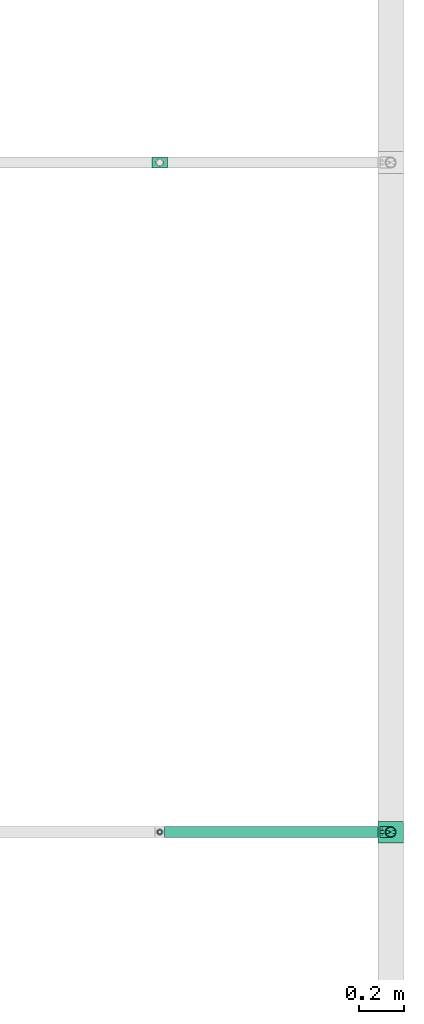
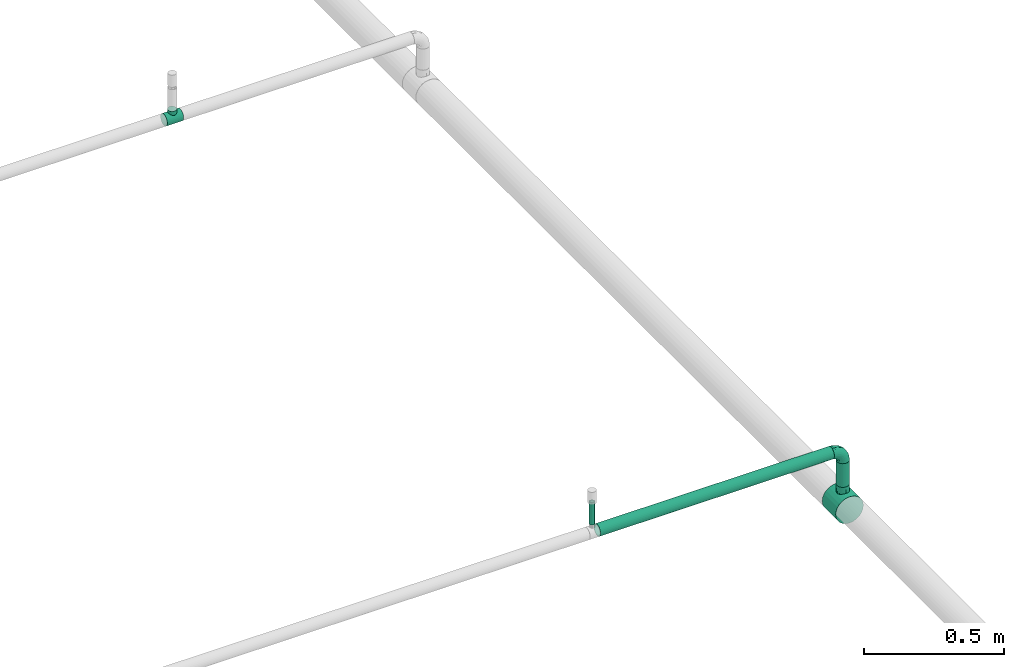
# One storey, part 5 of 14: 3 flow fittings, 3 flow segments.
"""IFC2X3 building model written with IfcOpenShell, lengths in millimetres."""

import ifcopenshell
import ifcopenshell.guid

model = None  # the IFC model being written
_history = None  # IfcOwnerHistory: only IFC2X3 demands one
_inside = {}  # id of a spatial element -> (the spatial element, [elements in it])
_under = {}  # id of a project, library or spatial element -> (it, [spatial elements below it])
_declared = {}  # id of a project -> (the project, [libraries it declares])
_typed = {}  # id of a type object -> (the type object, [elements of that type])
_made_of = {}  # id of a material, layer set ... -> (it, [elements and type objects made of it])


def new_model(schema):
    """Start an empty IFC model of exactly this schema.

    Asked for "IFC4X3", IfcOpenShell would pick the latest addendum, in which some entities
    have other attributes; the version numbers below select the first issue.
    IFC2X3 requires an IfcOwnerHistory on every rooted entity: one is made here for all.
    """
    global model, _history
    if schema == "IFC4X3":
        model = ifcopenshell.file(schema_version=(4, 3, 0, 0))
    else:
        model = ifcopenshell.file(schema=schema)
    _inside.clear()
    _under.clear()
    _declared.clear()
    _typed.clear()
    _made_of.clear()
    _history = None
    if model.schema == "IFC2X3":
        org = make("IfcOrganization", Name="unknown")
        user = make(
            "IfcPersonAndOrganization",
            ThePerson=make("IfcPerson", FamilyName="unknown"),
            TheOrganization=org,
        )
        app = make(
            "IfcApplication",
            ApplicationDeveloper=org,
            Version="unknown",
            ApplicationFullName="unknown",
            ApplicationIdentifier="unknown",
        )
        _history = make(
            "IfcOwnerHistory",
            OwningUser=user,
            OwningApplication=app,
            ChangeAction="ADDED",
            CreationDate=0,
        )
    return model


def make(cls, **values):
    """One entity of the class cls with the attributes given. An attribute that is None is left unset."""
    return model.create_entity(
        cls, **{name: value for name, value in values.items() if value is not None}
    )


def entity(cls, *values):
    """Any entity or typed value of the class cls, its attributes in the order of the schema. None: left unset."""
    e = model.create_entity(cls)
    for i, value in enumerate(values):
        if value is not None:
            e[i] = value
    return e


def rooted(cls, **values):
    """An entity with a GlobalId (a new one), such as an element, a storey or a relation."""
    return make(cls, GlobalId=ifcopenshell.guid.new(), OwnerHistory=_history, **values)


def si_unit(unit_type, name, prefix=None):
    """IfcSIUnit, for example si_unit("LENGTHUNIT", "METRE", prefix="MILLI")."""
    return make("IfcSIUnit", UnitType=unit_type, Prefix=prefix, Name=name)


def converted_unit(unit_type, name, factor, base, dimensions=None, offset=None):
    """IfcConversionBasedUnit, such as the inch: factor (a typed value) times the base unit."""
    return make(
        "IfcConversionBasedUnit"
        if offset is None
        else "IfcConversionBasedUnitWithOffset",
        ConversionOffset=offset,
        Dimensions=None
        if dimensions is None
        else entity("IfcDimensionalExponents", *dimensions),
        UnitType=unit_type,
        Name=name,
        ConversionFactor=make(
            "IfcMeasureWithUnit", ValueComponent=factor, UnitComponent=base
        ),
    )


def derived_unit(unit_type, elements):
    """IfcDerivedUnit: a product of units, each with its exponent."""
    return make(
        "IfcDerivedUnit",
        Elements=[
            make("IfcDerivedUnitElement", Unit=unit, Exponent=power)
            for unit, power in elements
        ],
        UnitType=unit_type,
    )


def assignment(units):
    """IfcUnitAssignment: the units of a project."""
    return None if units is None else make("IfcUnitAssignment", Units=units)


def point(xyz):
    """IfcCartesianPoint."""
    return None if xyz is None else make("IfcCartesianPoint", Coordinates=xyz)


def direction(xyz):
    """IfcDirection."""
    return None if xyz is None else make("IfcDirection", DirectionRatios=xyz)


def frame(location, z_axis=None, x_axis=None):
    """IfcAxis2Placement3D, a coordinate frame: its origin and axes. An axis left out is left unset."""
    return make(
        "IfcAxis2Placement3D",
        Location=point(location),
        Axis=direction(z_axis),
        RefDirection=direction(x_axis),
    )


def frame_2d(location, x_axis=None):
    """IfcAxis2Placement2D, a coordinate frame in the plane: its origin and x axis."""
    return make(
        "IfcAxis2Placement2D", Location=point(location), RefDirection=direction(x_axis)
    )


def origin_with_axes():
    """The frame at (0, 0, 0) with the z axis (0, 0, 1) and the x axis (1, 0, 0) written out."""
    return frame((0.0, 0.0, 0.0), z_axis=(0.0, 0.0, 1.0), x_axis=(1.0, 0.0, 0.0))


def origin_2d_with_axis():
    """The frame at (0, 0) in the plane with the x axis (1, 0) written out."""
    return frame_2d((0.0, 0.0), x_axis=(1.0, 0.0))


def place(relative_to, where):
    """IfcLocalPlacement: puts the frame where relative to a parent placement (None: the world)."""
    return make(
        "IfcLocalPlacement", PlacementRelTo=relative_to, RelativePlacement=where
    )


def context(
    kind, dimensions, precision=None, world=None, true_north=None, identifier=None
):
    """IfcGeometricRepresentationContext, for example the 3D "Model" context."""
    return make(
        "IfcGeometricRepresentationContext",
        ContextIdentifier=identifier,
        ContextType=kind,
        CoordinateSpaceDimension=dimensions,
        Precision=precision,
        WorldCoordinateSystem=world,
        TrueNorth=true_north,
    )


def subcontext(parent, identifier, kind, view, scale=None):
    """IfcGeometricRepresentationSubContext, for example "Body" below "Model"."""
    return make(
        "IfcGeometricRepresentationSubContext",
        ContextIdentifier=identifier,
        ContextType=kind,
        ParentContext=parent,
        TargetScale=scale,
        TargetView=view,
    )


def project(units=None, contexts=None):
    """IfcProject with its units and contexts."""
    return rooted(
        "IfcProject",
        Name="project",
        RepresentationContexts=contexts,
        UnitsInContext=assignment(units),
    )


def spatial(cls, under=None, at=None, **own):
    """A site, building, storey or space (cls), placed at a placement, below another one or the project."""
    s = rooted(cls, ObjectPlacement=at, **own)
    if under is not None:
        _under.setdefault(under.id(), (under, []))[1].append(s)
    return s


def profile(cls, at=None, kind="AREA", **sizes):
    """A parametric profile (cls). Its sizes go by their IFC names, for example OverallWidth=200.0."""
    return make(cls, ProfileType=kind, Position=at, **sizes)


def hollow_circle(**sizes):
    """IfcCircleHollowProfileDef."""
    return profile("IfcCircleHollowProfileDef", **sizes)


def extrude(swept, where, along, depth):
    """IfcExtrudedAreaSolid: the profile swept, set in the frame where, extruded along a direction by depth."""
    return make(
        "IfcExtrudedAreaSolid",
        SweptArea=swept,
        Position=where,
        ExtrudedDirection=direction(along),
        Depth=depth,
    )


def faces_of(points, faces, orient=None, outer=None):
    """IfcFace entities. A face is a list of loops; a loop is a list of indices into points, from 0.

    orient and outer hold one flag for each loop. By default every Orientation is true, the
    first loop of a face is its IfcFaceOuterBound and the others are IfcFaceBound.
    """
    made = []
    for i, loops in enumerate(faces):
        bounds = []
        for j, loop in enumerate(loops):
            is_outer = j == 0 if outer is None else outer[i][j]
            bounds.append(
                make(
                    "IfcFaceOuterBound" if is_outer else "IfcFaceBound",
                    Bound=make("IfcPolyLoop", Polygon=[points[k] for k in loop]),
                    Orientation=True if orient is None else orient[i][j],
                )
            )
        made.append(make("IfcFace", Bounds=bounds))
    return made


def open_shell(faces, orient=None, outer=None):
    """The faces of one IfcOpenShell. surface_model builds it on its shared points."""
    return ("IfcOpenShell", faces, orient, outer)


def surface_model(cls, points, shells):
    """IfcFaceBasedSurfaceModel or IfcShellBasedSurfaceModel (cls): surfaces that need not close."""
    shared = [point(p) for p in points]
    made = [make(c, CfsFaces=faces_of(shared, fs, o, b)) for c, fs, o, b in shells]
    if cls == "IfcFaceBasedSurfaceModel":
        return make(cls, FbsmFaces=made)
    return make(cls, SbsmBoundary=made)


def shape(context_of_items, identifier, shape_type, items):
    """IfcShapeRepresentation: the items that make up one representation, for example the "Body"."""
    return make(
        "IfcShapeRepresentation",
        ContextOfItems=context_of_items,
        RepresentationIdentifier=identifier,
        RepresentationType=shape_type,
        Items=items,
    )


def source(mapping_origin, context_of_items, identifier, shape_type, items):
    """IfcRepresentationMap: a shape defined once, which mapped items show again and again."""
    return make(
        "IfcRepresentationMap",
        MappingOrigin=mapping_origin,
        MappedRepresentation=shape(context_of_items, identifier, shape_type, items),
    )


def transform(
    local_origin,
    x_axis=None,
    y_axis=None,
    z_axis=None,
    scale=None,
    scale2=None,
    scale3=None,
    uniform=True,
):
    """IfcCartesianTransformationOperator3D, or its non-uniform kind. x_axis, y_axis, z_axis: its Axis1, 2, 3."""
    if uniform:
        return make(
            "IfcCartesianTransformationOperator3D",
            Axis1=direction(x_axis),
            Axis2=direction(y_axis),
            LocalOrigin=point(local_origin),
            Scale=scale,
            Axis3=direction(z_axis),
        )
    return make(
        "IfcCartesianTransformationOperator3DnonUniform",
        Axis1=direction(x_axis),
        Axis2=direction(y_axis),
        LocalOrigin=point(local_origin),
        Scale=scale,
        Axis3=direction(z_axis),
        Scale2=scale2,
        Scale3=scale3,
    )


def mapped(mapping_source, mapping_target):
    """IfcMappedItem: shows the shape of a source again, moved by a transform."""
    return make(
        "IfcMappedItem", MappingSource=mapping_source, MappingTarget=mapping_target
    )


def made_of(thing, what):
    """Note that an element or type object is made of a material, layer set ...; save() writes the relation."""
    if what is not None:
        _made_of.setdefault(what.id(), (what, []))[1].append(thing)
    return thing


def type_object(cls, material=None, **own):
    """A type object (cls), such as IfcWallType, which elements share."""
    return made_of(rooted(cls, **own), material)


def element(
    cls,
    number,
    at=None,
    inside=None,
    cuts=None,
    type_object=None,
    material=None,
    context=None,
    identifier="Body",
    shape_type=None,
    held_by="IfcProductDefinitionShape",
    body=None,
    shapes=None,
    **own,
):
    """One element of the class cls, such as IfcWall. Its Tag is "e" and its number.

    at: its placement. inside: the storey or other place that contains it. cuts: it is an
    opening in that element (IfcRelVoidsElement). A single representation is given by context,
    identifier, shape_type and body (its items); several are given by shapes. held_by: the class
    of the entity that holds the representations. save() writes the other relations.
    """
    e = rooted(cls, Tag="e%d" % number, ObjectPlacement=at, **own)
    if body is not None:
        shapes = [shape(context, identifier, shape_type, body)]
    if shapes is not None:
        e.Representation = make(held_by, Representations=shapes)
    if inside is not None:
        _inside.setdefault(inside.id(), (inside, []))[1].append(e)
    if cuts is not None:
        rooted(
            "IfcRelVoidsElement", RelatingBuildingElement=cuts, RelatedOpeningElement=e
        )
    if type_object is not None:
        _typed.setdefault(type_object.id(), (type_object, []))[1].append(e)
    return made_of(e, material)


def aggregate(whole, parts):
    """IfcRelAggregates: a whole, such as a stair, and the parts it consists of."""
    return rooted("IfcRelAggregates", RelatingObject=whole, RelatedObjects=parts)


def save(model, path):
    """Write the relations noted so far, then the file.

    IfcRelAggregates (storeys below a building ...), IfcRelContainedInSpatialStructure (elements
    in a storey), IfcRelDefinesByType, IfcRelAssociatesMaterial and IfcRelDeclares: one each for
    every whole, place, type object, material and project.
    """
    for whole, parts in _under.values():
        aggregate(whole, parts)
    for where, things in _inside.values():
        rooted(
            "IfcRelContainedInSpatialStructure",
            RelatedElements=things,
            RelatingStructure=where,
        )
    for kind, things in _typed.values():
        rooted("IfcRelDefinesByType", RelatedObjects=things, RelatingType=kind)
    for what, things in _made_of.values():
        rooted("IfcRelAssociatesMaterial", RelatedObjects=things, RelatingMaterial=what)
    for by, libraries in _declared.values():
        rooted("IfcRelDeclares", RelatingContext=by, RelatedDefinitions=libraries)
    model.write(path)


model = new_model("IFC2X3")

# Units and contexts
model_context = context("Model", 3, precision=0.01, world=frame((0.0, 4.29681676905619e-09, 0.0)), true_north=direction((4.01073788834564e-13, 1.0)))
plan_context = context("Plan", 3, precision=0.01, world=frame((0.0, 4.29681676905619e-09, 0.0)), true_north=direction((4.01073788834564e-13, 1.0)))
body_context = subcontext(model_context, "Body", "Model", "MODEL_VIEW")
ifc_project = project(units=[converted_unit("PLANEANGLEUNIT", "DEGREE", entity("IfcPositiveLengthMeasure", 0.0174532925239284), si_unit("PLANEANGLEUNIT", "RADIAN"), dimensions=[0, 0, 0, 0, 0, 0, 0]), si_unit("AREAUNIT", "SQUARE_METRE"), si_unit("LENGTHUNIT", "METRE", prefix="MILLI"), si_unit("MASSUNIT", "GRAM", prefix="KILO"), si_unit("POWERUNIT", "WATT"), si_unit("PRESSUREUNIT", "PASCAL"), si_unit("FORCEUNIT", "NEWTON", prefix="KILO"), si_unit("ELECTRICVOLTAGEUNIT", "VOLT"), si_unit("ELECTRICCURRENTUNIT", "AMPERE"), si_unit("THERMODYNAMICTEMPERATUREUNIT", "DEGREE_CELSIUS"), si_unit("TIMEUNIT", "SECOND"), si_unit("VOLUMEUNIT", "CUBIC_METRE"), derived_unit("LINEARVELOCITYUNIT", [(si_unit("LENGTHUNIT", "METRE"), 1), (si_unit("TIMEUNIT", "SECOND"), -1)]), derived_unit("VOLUMETRICFLOWRATEUNIT", [(si_unit("VOLUMEUNIT", "CUBIC_METRE"), 1), (si_unit("TIMEUNIT", "SECOND"), -1)]), derived_unit("THERMALTRANSMITTANCEUNIT", [(si_unit("POWERUNIT", "WATT"), 1), (si_unit("THERMODYNAMICTEMPERATUREUNIT", "KELVIN"), -1), (si_unit("AREAUNIT", "SQUARE_METRE"), -1)]), derived_unit("SOUNDPRESSUREUNIT", [(si_unit("PRESSUREUNIT", "PASCAL"), 1)])], contexts=[model_context, plan_context])

# Site, building, storey
site_placement = place(None, frame((0.0, -4.29681676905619e-09, 0.0), z_axis=(0.0, 0.0, 1.0), x_axis=(1.0, 0.0, 0.0)))
site = spatial("IfcSite", under=ifc_project, at=site_placement, CompositionType="ELEMENT")
building_placement = place(site_placement, frame((0.0, 4.29681676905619e-09, 0.0), z_axis=(0.0, 0.0, 1.0), x_axis=(1.0, 0.0, 0.0)))
building = spatial("IfcBuilding", under=site, at=building_placement, Name="mc-building", CompositionType="ELEMENT")
storey_placement = place(building_placement, frame((0.0, 0.0, 204000.0), z_axis=(0.0, 0.0, 1.0), x_axis=(1.0, 0.0, 0.0)))
storey = spatial("IfcBuildingStorey", under=building, at=storey_placement, Name="Nivå D", CompositionType="ELEMENT", Elevation=204000.0)

# Flow fittings
pipe_fitting_type_1 = type_object("IfcPipeFittingType", Name="magi_pipe_fe_tee_centric_90_NOR", PredefinedType="JUNCTION")
shared_shape_1 = source(origin_with_axes(), body_context, "Body", "SurfaceModel", [
    surface_model("IfcShellBasedSurfaceModel", [(-33.8, 0.0, -24.2), (-33.8, -6.26342, -23.37541), (-33.8, 6.26342, -23.37541), (-33.8, 12.1, -20.95781), (-33.8, 17.11198, -17.11198), (-33.8, 20.95781, -12.1), (-33.8, -23.37541, -6.26342), (-33.8, 23.37541, -6.26342), (-33.8, -17.11198, -17.11198), (-33.8, -20.95781, -12.1), (-33.8, -12.1, -20.95781), (-33.8, -24.2, 0.0), (-33.8, -23.37541, 6.26342), (-33.8, 20.95781, 12.1), (-33.8, 23.37541, 6.26342), (-33.8, 24.2, 0.0), (-33.8, 12.1, 20.95781), (-33.8, 17.11198, 17.11198), (-33.8, -17.11198, 17.11198), (-33.8, 6.26342, 23.37541), (-33.8, -20.95781, 12.1), (-33.8, -12.1, 20.95781), (-33.8, -6.26342, 23.37541), (-33.8, 0.0, 24.2), (33.8, 6.26342, -23.37541), (33.8, -6.26342, -23.37541), (33.8, 0.0, -24.2), (33.8, 17.11198, -17.11198), (33.8, 12.1, -20.95781), (33.8, -23.37541, -6.26342), (33.8, 20.95781, -12.1), (33.8, 23.37541, -6.26342), (33.8, -17.11198, -17.11198), (33.8, -12.1, -20.95781), (33.8, -20.95781, -12.1), (33.8, -24.2, 0.0), (33.8, 24.2, 0.0), (33.8, 23.37541, 6.26342), (33.8, 20.95781, 12.1), (33.8, -23.37541, 6.26342), (33.8, -17.11198, 17.11198), (33.8, 12.1, 20.95781), (33.8, 17.11198, 17.11198), (33.8, 6.26342, 23.37541), (33.8, -20.95781, 12.1), (33.8, -12.1, 20.95781), (33.8, 0.0, 24.2), (33.8, -6.26342, 23.37541), (15.81824, -23.45734, 5.94922), (16.9, -24.2, 0.0), (12.87025, -21.57947, 10.95293), (33.8, -19.0349, 14.60599), (8.52813, -19.30697, 14.59044), (3.03527, -17.5853, 16.6252), (-3.04044, -17.58619, 16.62425), (-8.52961, -19.30762, 14.58958), (-33.8, -19.0349, 14.60599), (-16.9, -24.2, 0.0), (-15.81885, -23.45775, 5.9476), (-12.87368, -21.58151, 10.9489), (3.03527, -17.5853, -16.6252), (33.8, -19.0349, -14.60599), (8.52813, -19.30697, -14.59044), (-8.52961, -19.30762, -14.58958), (-33.8, -19.0349, -14.60599), (12.87025, -21.57947, -10.95293), (-3.04044, -17.58619, -16.62425), (15.81824, -23.45734, -5.94922), (-12.87368, -21.58151, -10.9489), (-15.81885, -23.45775, -5.9476), (4.37404, -36.3, -16.32415), (-16.9, -36.3, 0.0), (0.0, -36.3, -16.9), (14.63583, -36.3, -8.45), (8.45, -36.3, -14.63583), (16.32415, -36.3, -4.37404), (11.9501, -36.3, -11.9501), (-11.9501, -36.3, -11.9501), (-8.45, -36.3, -14.63583), (-4.37404, -36.3, -16.32415), (-14.63583, -36.3, -8.45), (-16.32415, -36.3, -4.37404), (16.9, -36.3, 0.0), (8.45, -36.3, 14.63583), (16.32415, -36.3, 4.37404), (14.63583, -36.3, 8.45), (-8.45, -36.3, 14.63583), (11.9501, -36.3, 11.9501), (4.37404, -36.3, 16.32415), (-16.32415, -36.3, 4.37404), (-11.9501, -36.3, 11.9501), (-14.63583, -36.3, 8.45), (0.0, -36.3, 16.9), (-4.37404, -36.3, 16.32415), (-16.35943, -23.82888, 2.9738), (16.35912, -23.82867, 2.97461), (-0.00259, -17.58575, 16.62472), (16.35912, -23.82867, -2.97461), (-0.00259, -17.58575, -16.62472), (-16.35943, -23.82888, -2.9738)], [open_shell([[[0, 1, 2]], [[3, 2, 4]], [[5, 2, 6]], [[4, 2, 5]], [[7, 5, 6]], [[8, 9, 10]], [[1, 10, 9]], [[1, 9, 2]], [[9, 6, 2]], [[6, 11, 7]], [[11, 12, 7]], [[13, 14, 15]], [[13, 15, 12]], [[16, 17, 18]], [[12, 17, 13]], [[19, 16, 18]], [[20, 18, 12]], [[18, 17, 12]], [[21, 22, 18]], [[23, 18, 22]], [[18, 23, 19]], [[7, 12, 15]], [[24, 25, 26]], [[27, 24, 28]], [[29, 24, 30]], [[30, 24, 27]], [[29, 30, 31]], [[25, 32, 33]], [[32, 25, 34]], [[24, 34, 25]], [[24, 29, 34]], [[31, 35, 29]], [[31, 36, 35]], [[36, 37, 38]], [[39, 36, 38]], [[40, 38, 41]], [[41, 38, 42]], [[40, 41, 43]], [[39, 40, 44]], [[39, 38, 40]], [[45, 46, 47]], [[46, 45, 40]], [[43, 46, 40]], [[36, 39, 35]], [[35, 39, 48]], [[48, 49, 35]], [[39, 50, 48]], [[51, 40, 52]], [[52, 50, 44]], [[53, 52, 40]], [[54, 53, 21]], [[44, 50, 39]], [[55, 18, 56]], [[57, 58, 11]], [[12, 11, 58]], [[58, 59, 12]], [[55, 54, 18]], [[55, 20, 59]], [[20, 55, 56]], [[59, 20, 12]], [[18, 54, 21]], [[52, 44, 51]], [[53, 40, 45]], [[23, 47, 46]], [[22, 45, 47]], [[19, 46, 43]], [[38, 37, 14]], [[17, 41, 42]], [[13, 42, 38]], [[43, 41, 16]], [[15, 37, 36]], [[21, 45, 22]], [[22, 47, 23]], [[19, 23, 46]], [[43, 16, 19]], [[16, 41, 17]], [[13, 17, 42]], [[14, 13, 38]], [[37, 15, 14]], [[45, 21, 53]], [[5, 31, 30]], [[7, 36, 31]], [[4, 30, 27]], [[26, 25, 1]], [[2, 28, 24]], [[0, 24, 26]], [[27, 28, 3]], [[10, 25, 33]], [[15, 36, 7]], [[7, 31, 5]], [[4, 5, 30]], [[27, 3, 4]], [[3, 28, 2]], [[0, 2, 24]], [[1, 0, 26]], [[25, 10, 1]], [[33, 60, 10]], [[61, 34, 62]], [[63, 9, 64]], [[62, 60, 32]], [[34, 65, 62]], [[66, 10, 60]], [[29, 35, 67]], [[67, 65, 29]], [[49, 67, 35]], [[29, 65, 34]], [[66, 63, 8]], [[62, 32, 61]], [[64, 8, 63]], [[63, 68, 9]], [[8, 10, 66]], [[68, 69, 6]], [[69, 11, 6]], [[11, 69, 57]], [[68, 6, 9]], [[60, 33, 32]], [[70, 71, 72]], [[73, 70, 74]], [[73, 75, 70]], [[73, 74, 76]], [[71, 70, 75]], [[72, 77, 78]], [[78, 79, 72]], [[80, 71, 81]], [[77, 72, 80]], [[71, 80, 72]], [[75, 82, 71]], [[83, 82, 84]], [[83, 84, 85]], [[86, 71, 83]], [[83, 85, 87]], [[86, 83, 88]], [[89, 90, 91]], [[90, 89, 86]], [[86, 92, 93]], [[89, 71, 86]], [[88, 92, 86]], [[83, 71, 82]], [[89, 94, 71]], [[59, 91, 90]], [[89, 91, 58]], [[90, 86, 55]], [[89, 58, 94]], [[94, 57, 71]], [[58, 91, 59]], [[95, 48, 84]], [[55, 93, 54]], [[55, 59, 90]], [[92, 53, 96]], [[55, 86, 93]], [[53, 92, 88]], [[83, 52, 88]], [[87, 85, 50]], [[87, 52, 83]], [[48, 85, 84]], [[87, 50, 52]], [[52, 53, 88]], [[82, 95, 84]], [[48, 50, 85]], [[95, 82, 49]], [[92, 54, 93]], [[96, 54, 92]], [[75, 97, 82]], [[65, 73, 76]], [[75, 73, 67]], [[76, 74, 62]], [[97, 49, 82]], [[67, 73, 65]], [[62, 70, 60]], [[62, 65, 76]], [[72, 66, 98]], [[62, 74, 70]], [[99, 71, 57]], [[99, 69, 81]], [[75, 67, 97]], [[79, 66, 72]], [[69, 80, 81]], [[77, 80, 68]], [[72, 60, 70]], [[79, 63, 66]], [[63, 79, 78]], [[78, 77, 63]], [[63, 77, 68]], [[68, 80, 69]], [[71, 99, 81]], [[98, 60, 72]]])]),
])
flow_fitting_1_placement = place(storey_placement, frame((608200.0, 693802.46783, 6129.32644999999), z_axis=(0.0, -1.0, 0.0), x_axis=(-1.0, 0.0, 0.0)))
element("IfcFlowFitting", 1, at=flow_fitting_1_placement, inside=storey, type_object=pipe_fitting_type_1, Name="magi_pipe_fe_tee_centric_90_NOR", context=body_context, shape_type="MappedRepresentation", body=[
    mapped(shared_shape_1, transform((0.0, 0.0, 0.0), scale=1.0)),
])
shared_shape_2 = source(origin_with_axes(), body_context, "Body", "SurfaceModel", [
    surface_model("IfcShellBasedSurfaceModel", [(0.0, -85.8, -24.2), (6.26342, -85.8, -23.37541), (12.1, -85.8, -20.95781), (12.1, -85.8, 20.95781), (17.11198, -85.8, -17.11198), (20.95781, -85.8, -12.1), (23.37541, -85.8, -6.26342), (-12.1, -85.8, -20.95781), (-20.95781, -85.8, -12.1), (-17.11198, -85.8, -17.11198), (-6.26342, -85.8, -23.37541), (-23.37541, -85.8, -6.26342), (-24.2, -85.8, 0.0), (24.2, -85.8, 0.0), (23.37541, -85.8, 6.26342), (20.95781, -85.8, 12.1), (-23.37541, -85.8, 6.26342), (17.11198, -85.8, 17.11198), (6.26342, -85.8, 23.37541), (-17.11198, -85.8, 17.11198), (-20.95781, -85.8, 12.1), (-12.1, -85.8, 20.95781), (0.0, -85.8, 24.2), (-6.26342, -85.8, 23.37541), (-23.4577, -56.89395, 4.17285), (-4.25098, -52.0026, 23.82371), (-8.20207, -52.6185, 22.37537), (-12.15317, -53.23438, 20.92703), (-22.7154, -56.58789, 8.3457), (23.45736, -56.89381, 4.17377), (22.71472, -56.58762, 8.34755), (-18.5206, -55.03828, 15.5765), (-24.2, -57.2, 0.0), (8.19772, -52.61799, 22.37656), (4.24432, -52.00206, 23.8249), (-0.00333, -52.00233, 23.8243), (12.15111, -53.23391, 20.92823), (18.51418, -55.03613, 15.58413), (24.2, -57.2, 0.0), (23.45736, -56.89381, -4.17377), (18.51418, -55.03613, -15.58413), (8.19772, -52.61799, -22.37656), (12.15111, -53.23391, -20.92823), (22.71472, -56.58762, -8.34755), (4.24432, -52.00206, -23.8249), (-4.25098, -52.0026, -23.82371), (-0.00333, -52.00233, -23.8243), (-8.20207, -52.6185, -22.37537), (-23.4577, -56.89395, -4.17285), (-12.15317, -53.23438, -20.92703), (-22.7154, -56.58789, -8.3457), (-18.5206, -55.03828, -15.5765), (-48.4, 0.0, -57.2), (-48.4, -14.80445, -55.25096), (-48.4, 14.80445, -55.25096), (-48.4, 28.6, -49.53665), (-48.4, 40.44651, -40.44651), (-48.4, 55.25096, -14.80445), (-48.4, 49.53665, -28.6), (-48.4, -28.6, -49.53665), (-48.4, -40.44651, -40.44651), (-48.4, -49.53665, -28.6), (-48.4, -55.25096, -14.80445), (-48.4, -57.2, 0.0), (-48.4, -28.6, 49.53665), (-48.4, 49.53665, 28.6), (-48.4, 55.25096, 14.80445), (-48.4, 57.2, 0.0), (-48.4, 40.44651, 40.44651), (-48.4, 14.80445, 55.25096), (-48.4, 28.6, 49.53665), (-48.4, 0.0, 57.2), (-48.4, -55.25096, 14.80445), (-48.4, -49.53665, 28.6), (-48.4, -40.44651, 40.44651), (-48.4, -14.80445, 55.25096), (48.4, 14.80445, -55.25096), (48.4, -14.80445, -55.25096), (48.4, 0.0, -57.2), (48.4, 40.44651, -40.44651), (48.4, 28.6, -49.53665), (48.4, 49.53665, -28.6), (48.4, 55.25096, -14.80445), (48.4, -40.44651, -40.44651), (48.4, -28.6, -49.53665), (48.4, -49.53665, -28.6), (48.4, -40.44651, 40.44651), (48.4, -55.25096, -14.80445), (48.4, -57.2, 0.0), (48.4, -28.6, 49.53665), (48.4, 57.2, 0.0), (48.4, 55.25096, 14.80445), (48.4, 49.53665, 28.6), (48.4, 40.44651, 40.44651), (48.4, 28.6, 49.53665), (48.4, 14.80445, 55.25096), (48.4, 0.0, 57.2), (48.4, -49.53665, 28.6), (48.4, -55.25096, 14.80445), (48.4, -14.80445, 55.25096), (48.4, -56.22548, 7.40222), (-48.4, -56.22548, 7.40222), (48.4, -56.22548, -7.40222), (-48.4, -56.22548, -7.40222)], [open_shell([[[0, 1, 2]], [[3, 0, 2]], [[4, 5, 6]], [[4, 6, 2]], [[3, 7, 0]], [[7, 8, 9]], [[7, 10, 0]], [[7, 11, 8]], [[11, 7, 12]], [[7, 3, 12]], [[13, 2, 6]], [[13, 14, 15]], [[13, 15, 3]], [[3, 16, 12]], [[3, 15, 17]], [[16, 3, 18]], [[16, 19, 20]], [[16, 18, 19]], [[21, 22, 23]], [[22, 21, 19]], [[18, 22, 19]], [[3, 2, 13]], [[16, 24, 12]], [[22, 25, 23]], [[26, 21, 23]], [[26, 27, 21]], [[16, 28, 24]], [[28, 16, 20]], [[29, 30, 14]], [[31, 20, 19]], [[24, 32, 12]], [[28, 20, 31]], [[3, 33, 18]], [[27, 31, 19]], [[23, 25, 26]], [[27, 19, 21]], [[22, 34, 35]], [[3, 36, 33]], [[17, 36, 3]], [[30, 15, 14]], [[17, 15, 37]], [[34, 22, 18]], [[33, 34, 18]], [[35, 25, 22]], [[36, 17, 37]], [[37, 15, 30]], [[13, 29, 14]], [[29, 13, 38]], [[6, 39, 13]], [[4, 40, 5]], [[41, 42, 2]], [[6, 43, 39]], [[5, 43, 6]], [[42, 4, 2]], [[39, 38, 13]], [[43, 5, 40]], [[1, 44, 41]], [[42, 40, 4]], [[0, 45, 46]], [[7, 47, 10]], [[48, 12, 32]], [[47, 7, 49]], [[41, 2, 1]], [[48, 50, 11]], [[9, 49, 7]], [[50, 8, 11]], [[51, 9, 8]], [[45, 0, 10]], [[47, 45, 10]], [[46, 44, 0]], [[49, 9, 51]], [[51, 8, 50]], [[12, 48, 11]], [[0, 44, 1]], [[52, 53, 54]], [[55, 54, 56]], [[57, 58, 56]], [[54, 57, 56]], [[57, 54, 53]], [[59, 60, 53]], [[61, 53, 60]], [[62, 63, 61]], [[53, 61, 63]], [[64, 53, 63]], [[64, 57, 53]], [[65, 66, 67]], [[68, 65, 67]], [[69, 70, 68]], [[67, 69, 68]], [[71, 69, 67]], [[72, 73, 63]], [[73, 74, 63]], [[75, 71, 64]], [[74, 64, 63]], [[64, 71, 67]], [[67, 57, 64]], [[76, 77, 78]], [[79, 76, 80]], [[79, 81, 82]], [[79, 82, 76]], [[77, 76, 82]], [[77, 83, 84]], [[77, 82, 83]], [[82, 85, 83]], [[85, 86, 87]], [[86, 88, 87]], [[89, 85, 82]], [[90, 91, 92]], [[93, 82, 92]], [[93, 94, 95]], [[95, 82, 93]], [[96, 82, 95]], [[88, 97, 98]], [[88, 86, 97]], [[89, 96, 99]], [[85, 89, 86]], [[96, 89, 82]], [[92, 82, 90]], [[100, 98, 30]], [[38, 88, 100]], [[89, 64, 86]], [[28, 31, 72]], [[97, 74, 73]], [[95, 94, 70]], [[65, 93, 92]], [[28, 72, 101]], [[38, 100, 30]], [[81, 56, 58]], [[43, 87, 102]], [[32, 103, 50]], [[83, 60, 84]], [[61, 83, 85]], [[43, 40, 87]], [[61, 44, 45]], [[45, 49, 61]], [[51, 50, 62]], [[50, 103, 62]], [[103, 32, 63]], [[49, 62, 61]], [[98, 37, 30]], [[34, 97, 73]], [[37, 98, 36]], [[34, 36, 97]], [[97, 86, 74]], [[36, 98, 97]], [[28, 101, 32]], [[63, 32, 101]], [[27, 25, 73]], [[73, 72, 27]], [[25, 34, 73]], [[27, 72, 31]], [[86, 64, 74]], [[71, 99, 96]], [[75, 89, 99]], [[69, 96, 95]], [[92, 91, 66]], [[68, 94, 93]], [[67, 91, 90]], [[64, 89, 75]], [[75, 99, 71]], [[69, 71, 96]], [[95, 70, 69]], [[70, 94, 68]], [[65, 68, 93]], [[66, 65, 92]], [[91, 67, 66]], [[67, 90, 82]], [[57, 82, 81]], [[56, 81, 79]], [[78, 77, 53]], [[54, 80, 76]], [[78, 52, 76]], [[79, 80, 55]], [[59, 77, 84]], [[58, 57, 81]], [[67, 82, 57]], [[56, 79, 55]], [[55, 80, 54]], [[52, 54, 76]], [[53, 52, 78]], [[77, 59, 53]], [[84, 60, 59]], [[42, 44, 85]], [[85, 87, 42]], [[61, 85, 44]], [[88, 38, 102]], [[43, 102, 38]], [[87, 40, 42]], [[60, 83, 61]], [[51, 62, 49]]])]),
])
flow_fitting_2_placement = place(storey_placement, frame((609234.47302, 690802.46783, 5902.60000000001), z_axis=(-1.0, 0.0, 0.0), x_axis=(0.0, 1.0, 0.0)))
element("IfcFlowFitting", 2, at=flow_fitting_2_placement, inside=storey, type_object=pipe_fitting_type_1, Name="magi_pipe_fe_tee_centric_90_NOR", context=body_context, shape_type="MappedRepresentation", body=[
    mapped(shared_shape_2, transform((0.0, 0.0, 0.0), scale=1.0)),
])
pipe_fitting_type_2 = type_object("IfcPipeFittingType", Name="magi_pipe_fe_elbow_short_001", PredefinedType="BEND")
shared_shape_3 = source(origin_with_axes(), body_context, "Body", "SurfaceModel", [
    surface_model("IfcShellBasedSurfaceModel", [(-48.39495, 6.26342, -23.37541), (-48.39495, 0.0, -24.2), (-48.39495, 17.11198, -17.11198), (-48.39495, 12.1, -20.95781), (-48.39495, 23.37541, -6.26342), (-48.39495, 20.95781, -12.1), (-48.39495, -12.1, -20.95781), (-48.39495, -17.11198, -17.11198), (-48.39495, -20.95781, -12.1), (-48.39495, -6.26342, -23.37541), (-48.39495, -23.37541, -6.26342), (-48.39495, -24.2, 0.0), (-48.39495, -23.37541, 6.26342), (-48.39495, 23.37541, 6.26342), (-48.39495, 6.26342, 23.37541), (-48.39495, 20.95781, 12.1), (-48.39495, 17.11198, 17.11198), (-48.39495, 12.1, 20.95781), (-48.39495, -12.1, 20.95781), (-48.39495, -20.95781, 12.1), (-48.39495, -17.11198, 17.11198), (-48.39495, -6.26342, 23.37541), (-48.39495, 0.0, 24.2), (-48.39495, 24.2, 0.0), (-17.10694, 48.39674, -17.11198), (0.00505, 48.39495, -24.2), (-6.25837, 48.39561, -23.37541), (-12.09495, 48.39621, -20.95781), (12.10505, 48.39369, -20.95781), (12.10505, 48.39369, 20.95781), (-20.95277, 48.39714, -12.1), (20.96286, 48.39277, -12.1), (17.11703, 48.39317, -17.11198), (6.26847, 48.3943, -23.37541), (23.38045, 48.39252, -6.26342), (23.38045, 48.39252, 6.26342), (24.20505, 48.39243, 0.0), (-23.37036, 48.39739, -6.26342), (-24.19495, 48.39748, 0.0), (-23.37036, 48.39739, 6.26342), (-20.95277, 48.39714, 12.1), (-12.09495, 48.39621, 20.95781), (-6.25837, 48.39561, 23.37541), (-17.10694, 48.39674, 17.11198), (17.11703, 48.39317, 17.11198), (20.96286, 48.39277, 12.1), (0.00505, 48.39495, 24.2), (6.26847, 48.3943, 23.37541), (-35.49835, -18.80067, 13.58527), (-31.77393, -13.96169, 18.03285), (-34.50442, -21.43719, 0.0), (-21.38691, -15.41121, 12.21423), (-32.15781, -21.12196, 7.54758), (21.12531, 32.1556, 7.54758), (17.07794, 18.95011, 6.20365), (18.67653, 20.61194, 0.0), (-23.65163, 38.62202, 10.51808), (-20.21196, 37.67402, 15.89849), (-35.56481, -9.151, 21.7726), (-36.96567, -3.20585, 23.78615), (-33.88345, 3.70951, 24.15874), (-8.83778, -10.8065, 0.0), (-18.95189, -17.07597, 6.20365), (-20.61389, -18.67438, 0.0), (-18.69375, -5.87403, 20.10505), (-24.08986, -0.21756, 23.45602), (-2.07801, -4.09022, 10.90557), (-0.40409, 0.49725, 14.45705), (-8.22338, -5.79591, 14.91067), (-37.82566, 20.17361, 15.88157), (-8.40808, 23.79597, 24.15652), (-17.92221, 17.92408, 23.61187), (-14.40757, 10.57402, 24.07544), (-41.865, 14.65508, 19.71864), (-9.02908, 41.74, 22.66758), (-3.31296, 36.1955, 24.14055), (-38.63159, 23.65175, 10.51647), (-38.25646, 25.7757, 5.32042), (-30.04344, 30.04658, 9.04604), (-37.29962, 9.49118, 22.86033), (-6.31426, 16.20517, 23.7619), (-12.02105, 4.43931, 22.59825), (-2.46883, 13.07252, 22.23952), (-4.32047, 4.32092, 19.78596), (13.965, 31.77248, 18.03285), (15.41344, 21.3853, 12.21423), (18.80438, 35.49639, 13.58527), (-25.72438, 16.41917, 22.38349), (-26.58892, 10.3654, 23.76691), (3.20971, 36.96534, 23.78615), (9.15471, 35.56385, 21.7726), (5.87598, 18.69313, 20.10505), (21.44079, 34.50218, 0.0), (-23.7433, 5.92981, 24.18969), (-22.40019, 25.55342, 19.88499), (-33.32089, 16.427, 20.37872), (-25.46942, 39.03792, 5.19169), (-30.32602, 31.73937, 4.25884), (11.04791, 19.59522, 16.55192), (-27.43798, 36.29854, 0.0), (-10.46242, 32.78885, 23.04703), (-13.80665, 25.04925, 23.26339), (-17.54151, 31.27588, 20.33933), (-19.27691, 23.42722, 22.01911), (-14.78026, 40.57623, 19.81908), (-19.59637, -11.04586, 16.55192), (-25.09333, 32.07805, 13.6973), (-25.50626, 27.02442, 17.14176), (-31.07693, 26.00298, 13.49414), (0.22007, 24.08984, 23.45602), (5.51353, 8.4012, 15.32779), (-11.48107, -10.8025, 11.36), (1.43966, -3.14414, 6.55329), (7.35383, 4.30878, 8.44905), (7.50226, 2.50186, 3.62735), (12.46678, 10.08742, 5.71029), (12.15833, 12.55306, 10.15046), (-36.29568, 27.44176, 0.0), (-6.51653, -9.62258, 7.02763), (2.93832, -2.93863, 0.0), (10.80743, 8.83665, 0.0), (-19.59637, -11.04586, -16.55192), (-31.77393, -13.96169, -18.03285), (-18.69375, -5.87403, -20.10505), (-21.38691, -15.41121, -12.21423), (-37.67191, 20.21589, -15.89849), (-40.57469, 14.78449, -19.81908), (-39.03527, 25.47349, -5.19169), (-32.15781, -21.12196, -7.54758), (-30.04344, 30.04658, -9.04604), (-38.61956, 23.65566, -10.51808), (-18.95189, -17.07597, -6.20365), (-23.42521, 19.27935, -22.01911), (-25.04781, 13.80926, -23.26339), (-31.27405, 17.54478, -20.33933), (-14.65071, 41.86652, -19.71865), (-20.16966, 37.82776, -15.88157), (9.15471, 35.56385, -21.7726), (5.87598, 18.69313, -20.10505), (0.22007, 24.08984, -23.45602), (-41.73906, 9.03344, -22.66758), (-35.49835, -18.80067, -13.58527), (-35.56481, -9.151, -21.7726), (-16.41648, 25.72609, -22.38349), (-9.48729, 37.30061, -22.86033), (-10.36263, 26.59, -23.76691), (-36.96567, -3.20585, -23.78615), (-23.79509, 8.41056, -24.15652), (-17.92221, 17.92408, -23.61187), (-10.57252, 14.40867, -24.07544), (-36.19515, 3.31674, -24.14055), (-25.77171, 38.25915, -5.32042), (-23.64772, 38.63406, -10.51647), (-32.78776, 10.46584, -23.04703), (-31.73621, 30.32932, -4.25884), (-5.92734, 23.74391, -24.18969), (-25.55108, 22.40285, -19.88499), (-16.42353, 33.32261, -20.37872), (3.20971, 36.96534, -23.78615), (-3.70598, 33.88384, -24.15874), (18.80438, 35.49639, -13.58527), (13.965, 31.77248, -18.03285), (7.50227, 2.50187, -3.62735), (12.46678, 10.08742, -5.71029), (-16.20451, 6.31595, -23.7619), (-4.43805, 12.02151, -22.59825), (-13.07226, 2.47019, -22.23952), (1.43966, -3.14415, -6.55329), (-6.51653, -9.62258, -7.02763), (-2.07801, -4.09022, -10.90556), (15.41344, 21.3853, -12.21423), (21.12531, 32.1556, -7.54758), (17.07794, 18.95011, -6.20365), (-32.07543, 25.09667, -13.6973), (11.04791, 19.59522, -16.55192), (12.15833, 12.55306, -10.15046), (5.51353, 8.4012, -15.32779), (-27.02177, 25.50908, -17.14176), (-25.99974, 31.07964, -13.49414), (-24.08986, -0.21756, -23.45602), (-4.32047, 4.32092, -19.78596), (-8.22338, -5.79591, -14.91067), (-11.48107, -10.8025, -11.36), (-0.40409, 0.49725, -14.45705), (7.35383, 4.30878, -8.44906)], [open_shell([[[0, 1, 2]], [[3, 0, 2]], [[4, 5, 2]], [[6, 2, 1]], [[4, 2, 6]], [[7, 8, 6]], [[1, 9, 6]], [[8, 10, 6]], [[6, 10, 4]], [[11, 12, 10]], [[13, 4, 10]], [[14, 13, 10]], [[15, 13, 16]], [[13, 14, 17]], [[16, 13, 17]], [[10, 18, 14]], [[19, 20, 12]], [[20, 10, 12]], [[21, 22, 18]], [[20, 18, 10]], [[18, 22, 14]], [[23, 4, 13]], [[24, 25, 26]], [[24, 26, 27]], [[28, 25, 29]], [[30, 25, 24]], [[29, 25, 30]], [[28, 31, 32]], [[28, 33, 25]], [[28, 34, 31]], [[28, 29, 34]], [[34, 35, 36]], [[30, 37, 38]], [[38, 39, 40]], [[38, 40, 41]], [[41, 42, 38]], [[41, 40, 43]], [[42, 29, 30]], [[35, 44, 45]], [[35, 34, 44]], [[29, 46, 47]], [[34, 29, 44]], [[42, 46, 29]], [[30, 38, 42]], [[20, 48, 49]], [[12, 11, 50]], [[51, 48, 52]], [[53, 54, 55]], [[48, 20, 19]], [[12, 52, 19]], [[40, 56, 57]], [[49, 18, 20]], [[49, 58, 18]], [[22, 59, 60]], [[61, 62, 63]], [[58, 64, 65]], [[66, 67, 68]], [[15, 16, 69]], [[70, 71, 72]], [[17, 73, 16]], [[21, 59, 22]], [[42, 74, 75]], [[22, 60, 14]], [[15, 69, 76]], [[16, 73, 69]], [[23, 13, 77]], [[13, 15, 76]], [[77, 76, 78]], [[14, 79, 17]], [[80, 81, 82]], [[68, 83, 64]], [[84, 44, 29]], [[85, 86, 84]], [[87, 79, 88]], [[18, 58, 21]], [[46, 89, 47]], [[53, 35, 45]], [[46, 42, 75]], [[84, 90, 91]], [[45, 86, 53]], [[92, 35, 53]], [[86, 45, 44]], [[90, 29, 47]], [[53, 55, 92]], [[88, 93, 72]], [[54, 53, 85]], [[87, 94, 95]], [[78, 96, 97]], [[98, 84, 91]], [[99, 96, 38]], [[79, 14, 60]], [[96, 78, 56]], [[62, 52, 63]], [[57, 43, 40]], [[100, 70, 75]], [[101, 102, 103]], [[12, 50, 52]], [[104, 41, 43]], [[74, 42, 41]], [[57, 102, 104]], [[105, 64, 49]], [[90, 84, 29]], [[40, 39, 56]], [[56, 106, 57]], [[102, 57, 107]], [[95, 107, 69]], [[76, 108, 78]], [[100, 101, 70]], [[89, 75, 109]], [[64, 58, 49]], [[63, 52, 50]], [[59, 58, 65]], [[105, 49, 51]], [[64, 83, 81]], [[89, 90, 47]], [[36, 35, 92]], [[109, 82, 91]], [[109, 91, 90]], [[91, 83, 110]], [[111, 68, 105]], [[66, 68, 111]], [[62, 51, 52]], [[66, 112, 113]], [[114, 115, 113]], [[98, 85, 84]], [[52, 48, 19]], [[49, 48, 51]], [[84, 86, 44]], [[53, 86, 85]], [[88, 79, 60]], [[73, 79, 95]], [[96, 56, 39]], [[78, 108, 106]], [[87, 103, 94]], [[100, 74, 104]], [[108, 69, 107]], [[78, 97, 77]], [[88, 72, 71]], [[109, 75, 70]], [[81, 72, 65]], [[70, 72, 80]], [[75, 89, 46]], [[90, 89, 109]], [[58, 59, 21]], [[60, 59, 65]], [[67, 83, 68]], [[110, 113, 116]], [[88, 60, 93]], [[87, 88, 71]], [[103, 87, 71]], [[79, 87, 95]], [[101, 103, 71]], [[94, 103, 102]], [[38, 96, 39]], [[96, 99, 97]], [[99, 117, 97]], [[97, 117, 77]], [[23, 77, 117]], [[13, 76, 77]], [[60, 65, 93]], [[65, 72, 93]], [[70, 101, 71]], [[102, 101, 100]], [[69, 108, 76]], [[106, 108, 107]], [[57, 106, 107]], [[78, 106, 56]], [[57, 104, 43]], [[100, 104, 102]], [[102, 107, 94]], [[95, 94, 107]], [[64, 81, 65]], [[82, 81, 83]], [[91, 82, 83]], [[80, 82, 109]], [[70, 80, 109]], [[81, 80, 72]], [[79, 73, 17]], [[69, 73, 95]], [[104, 74, 41]], [[75, 74, 100]], [[62, 61, 118]], [[111, 62, 118]], [[113, 115, 116]], [[119, 118, 61]], [[111, 105, 51]], [[113, 112, 114]], [[120, 55, 54]], [[68, 64, 105]], [[91, 110, 98]], [[116, 98, 110]], [[62, 111, 51]], [[66, 111, 118]], [[112, 66, 118]], [[67, 113, 110]], [[118, 119, 112]], [[114, 112, 119]], [[119, 120, 114]], [[115, 120, 54]], [[120, 115, 114]], [[116, 54, 85]], [[54, 116, 115]], [[116, 85, 98]], [[113, 67, 66]], [[83, 67, 110]], [[121, 122, 123]], [[122, 121, 124]], [[5, 125, 2]], [[2, 126, 3]], [[117, 127, 23]], [[50, 10, 128]], [[127, 129, 130]], [[128, 131, 63]], [[132, 133, 134]], [[24, 135, 136]], [[137, 138, 139]], [[3, 140, 0]], [[128, 8, 141]], [[142, 6, 9]], [[128, 63, 50]], [[5, 4, 130]], [[8, 7, 141]], [[143, 144, 145]], [[146, 9, 1]], [[147, 148, 149]], [[8, 128, 10]], [[124, 141, 122]], [[150, 1, 0]], [[151, 152, 129]], [[125, 134, 126]], [[153, 147, 150]], [[127, 154, 129]], [[145, 155, 149]], [[38, 37, 151]], [[143, 156, 157]], [[152, 37, 30]], [[25, 158, 159]], [[122, 7, 6]], [[24, 27, 135]], [[144, 27, 26]], [[32, 160, 161]], [[25, 33, 158]], [[120, 162, 163]], [[130, 125, 5]], [[24, 136, 30]], [[0, 140, 150]], [[28, 161, 137]], [[142, 122, 6]], [[25, 159, 26]], [[164, 165, 166]], [[167, 168, 169]], [[31, 160, 32]], [[161, 28, 32]], [[170, 160, 171]], [[131, 128, 124]], [[36, 92, 34]], [[34, 92, 171]], [[172, 171, 55]], [[34, 171, 31]], [[144, 26, 159]], [[130, 173, 125]], [[174, 175, 176]], [[136, 152, 30]], [[28, 137, 33]], [[122, 142, 123]], [[134, 125, 177]], [[157, 177, 136]], [[152, 178, 129]], [[153, 133, 147]], [[146, 150, 179]], [[146, 142, 9]], [[11, 10, 50]], [[179, 166, 123]], [[179, 123, 142]], [[123, 180, 181]], [[138, 137, 161]], [[55, 171, 92]], [[158, 137, 139]], [[174, 161, 170]], [[138, 180, 165]], [[180, 138, 176]], [[124, 121, 182]], [[176, 183, 180]], [[61, 131, 168]], [[169, 168, 182]], [[172, 170, 171]], [[122, 141, 7]], [[128, 141, 124]], [[171, 160, 31]], [[161, 160, 170]], [[145, 144, 159]], [[135, 144, 157]], [[127, 130, 4]], [[129, 178, 173]], [[143, 132, 156]], [[153, 140, 126]], [[178, 136, 177]], [[129, 154, 151]], [[145, 149, 148]], [[179, 150, 147]], [[165, 149, 139]], [[147, 149, 164]], [[150, 146, 1]], [[142, 146, 179]], [[137, 158, 33]], [[159, 158, 139]], [[174, 138, 161]], [[184, 169, 183]], [[145, 159, 155]], [[143, 145, 148]], [[132, 143, 148]], [[144, 143, 157]], [[133, 132, 148]], [[156, 132, 134]], [[23, 127, 4]], [[127, 117, 154]], [[117, 99, 154]], [[154, 99, 151]], [[38, 151, 99]], [[37, 152, 151]], [[159, 139, 155]], [[139, 149, 155]], [[147, 133, 148]], [[134, 133, 153]], [[136, 178, 152]], [[173, 178, 177]], [[125, 173, 177]], [[129, 173, 130]], [[125, 126, 2]], [[153, 126, 134]], [[134, 177, 156]], [[157, 156, 177]], [[138, 165, 139]], [[166, 165, 180]], [[123, 166, 180]], [[164, 166, 179]], [[147, 164, 179]], [[165, 164, 149]], [[144, 135, 27]], [[136, 135, 157]], [[126, 140, 3]], [[150, 140, 153]], [[182, 131, 124]], [[168, 119, 61]], [[119, 167, 162]], [[63, 131, 61]], [[172, 163, 175]], [[172, 55, 120]], [[123, 181, 121]], [[182, 121, 181]], [[175, 174, 170]], [[176, 138, 174]], [[169, 182, 181]], [[131, 182, 168]], [[183, 169, 181]], [[167, 169, 184]], [[162, 167, 184]], [[119, 168, 167]], [[163, 162, 184]], [[120, 119, 162]], [[175, 163, 184]], [[120, 163, 172]], [[176, 175, 184]], [[172, 175, 170]], [[180, 183, 181]], [[184, 183, 176]]])]),
])
flow_fitting_3_placement = place(storey_placement, frame((609234.47302, 690802.46783, 6139.86897000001), z_axis=(0.0, -1.0, 0.0), x_axis=(0.0, 0.0, 1.0)))
element("IfcFlowFitting", 3, at=flow_fitting_3_placement, inside=storey, type_object=pipe_fitting_type_2, Name="magi_pipe_fe_elbow_short_001", context=body_context, shape_type="MappedRepresentation", body=[
    mapped(shared_shape_3, transform((0.0, 0.0, 0.0), scale=1.0)),
])

# Flow segments
pipe_segment_type = type_object("IfcPipeSegmentType", Name="Stålrør normaltykke", PredefinedType="RIGIDSEGMENT")
shared_shape_4 = source(origin_with_axes(), body_context, "Body", "SweptSolid", [
    extrude(hollow_circle(Radius=10.7, WallThickness=2.0, at=origin_2d_with_axis()), frame((0.0, 0.0, 0.0), z_axis=(1.0, 0.0, 0.0), x_axis=(0.0, 1.0, 0.0)), (0.0, 0.0, 1.0), 96.7),
])
flow_segment_1_placement = place(storey_placement, frame((608200.0, 690802.46783, 6176.29999999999), z_axis=(0.0, 1.0, 0.0), x_axis=(0.0, 0.0, 1.0)))
element("IfcFlowSegment", 4, at=flow_segment_1_placement, inside=storey, type_object=pipe_segment_type, Name="Stålrør normaltykke", context=body_context, shape_type="MappedRepresentation", body=[
    mapped(shared_shape_4, transform((0.0, 0.0, 0.0), scale=1.0, scale2=1.0, scale3=1.0, uniform=False)),
])
shared_shape_5 = source(origin_with_axes(), body_context, "Body", "SweptSolid", [
    extrude(hollow_circle(Radius=24.1, WallThickness=2.0, at=origin_2d_with_axis()), frame((0.0, 0.0, 0.0), z_axis=(1.0, 0.0, 0.0), x_axis=(0.0, 1.0, 0.0)), (0.0, 0.0, 1.0), 964.7),
])
flow_segment_2_placement = place(storey_placement, frame((608221.4, 690802.46783, 6140.0), z_axis=(0.0, 0.0, 1.0), x_axis=(1.0, 0.0, 0.0)))
element("IfcFlowSegment", 5, at=flow_segment_2_placement, inside=storey, type_object=pipe_segment_type, Name="Stålrør normaltykke", context=body_context, shape_type="MappedRepresentation", body=[
    mapped(shared_shape_5, transform((0.0, 0.0, 0.0), scale=1.0)),
])
shared_shape_6 = source(origin_with_axes(), body_context, "Body", "SweptSolid", [
    extrude(hollow_circle(Radius=24.1, WallThickness=2.0, at=origin_2d_with_axis()), frame((0.0, 0.0, 0.0), z_axis=(1.0, 0.0, 0.0), x_axis=(0.0, 1.0, 0.0)), (0.0, 0.0, 1.0), 103.1),
])
flow_segment_3_placement = place(storey_placement, frame((609234.47302, 690802.46783, 5988.39999999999), z_axis=(1.0, 0.0, 0.0), x_axis=(0.0, 0.0, 1.0)))
element("IfcFlowSegment", 6, at=flow_segment_3_placement, inside=storey, type_object=pipe_segment_type, Name="Stålrør normaltykke", context=body_context, shape_type="MappedRepresentation", body=[
    mapped(shared_shape_6, transform((0.0, 0.0, 0.0), scale=1.0)),
])

save(model, "model.ifc")
